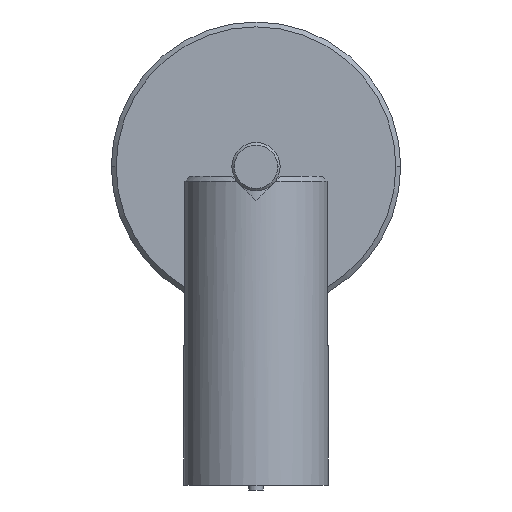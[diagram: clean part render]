
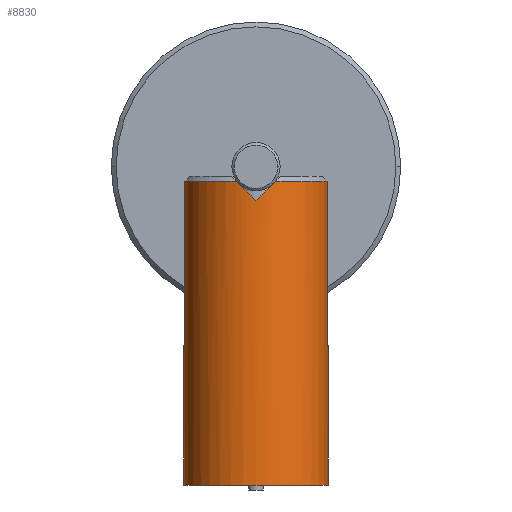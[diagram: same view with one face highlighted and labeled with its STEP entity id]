
A CAD part, front view. The second image highlights one B-rep face of the part: STEP entity #8830.
In plain terms, the highlighted cylindrical face has radius 15 mm (diameter 30 mm), a partial arc.
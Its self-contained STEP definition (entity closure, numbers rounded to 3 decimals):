
#6400=CARTESIAN_POINT('',(-2.6,-66.577,210.3));
#6410=DIRECTION('',(0.,-1.,0.));
#6420=DIRECTION('',(1.,0.,0.));
#6430=AXIS2_PLACEMENT_3D('',#6400,#6410,#6420);
#6440=CIRCLE('',#6430,15.);
#6450=CARTESIAN_POINT('',(12.4,-66.577,210.3));
#6460=VERTEX_POINT('',#6450);
#6470=CARTESIAN_POINT('',(-17.6,-66.577,210.3));
#6480=VERTEX_POINT('',#6470);
#6490=EDGE_CURVE('',#6460,#6480,#6440,.T.);
#7910=CARTESIAN_POINT('',(-2.6,-7.648,210.3));
#7920=DIRECTION('',(0.707,-0.707,0.));
#7930=DIRECTION('',(-0.707,-0.707,-0.));
#7940=AXIS2_PLACEMENT_3D('',#7910,#7920,#7930);
#7950=ELLIPSE('',#7940,21.213,15.);
#8010=CARTESIAN_POINT('',(-2.6,-68.577,210.3));
#8020=DIRECTION('',(0.,-1.,0.));
#8030=DIRECTION('',(1.,0.,0.));
#8040=AXIS2_PLACEMENT_3D('',#8010,#8020,#8030);
#8050=CYLINDRICAL_SURFACE('',#8040,15.);
#8060=CARTESIAN_POINT('',(-2.6,-37.577,210.3));
#8070=DIRECTION('',(0.,-1.,0.));
#8080=DIRECTION('',(1.,0.,0.));
#8090=AXIS2_PLACEMENT_3D('',#8060,#8070,#8080);
#8100=CIRCLE('',#8090,15.);
#8110=CARTESIAN_POINT('',(12.4,-37.577,210.3));
#8120=VERTEX_POINT('',#8110);
#8130=CARTESIAN_POINT('',(12.146,-37.577,213.05));
#8140=VERTEX_POINT('',#8130);
#8150=EDGE_CURVE('',#8120,#8140,#8100,.T.);
#8160=ORIENTED_EDGE('',*,*,#8150,.T.);
#8170=CARTESIAN_POINT('',(12.4,-68.577,210.3));
#8180=DIRECTION('',(0.,-1.,0.));
#8190=VECTOR('',#8180,1.);
#8200=LINE('',#8170,#8190);
#8210=EDGE_CURVE('',#8120,#6460,#8200,.T.);
#8220=ORIENTED_EDGE('',*,*,#8210,.F.);
#8230=ORIENTED_EDGE('',*,*,#6490,.F.);
#8240=CARTESIAN_POINT('',(-17.6,-68.577,210.3));
#8250=DIRECTION('',(0.,-1.,0.));
#8260=VECTOR('',#8250,1.);
#8270=LINE('',#8240,#8260);
#8280=CARTESIAN_POINT('',(-17.6,-37.577,210.3));
#8290=VERTEX_POINT('',#8280);
#8300=EDGE_CURVE('',#8290,#6480,#8270,.T.);
#8310=ORIENTED_EDGE('',*,*,#8300,.T.);
#8320=CARTESIAN_POINT('',(-17.346,-37.577,213.05));
#8330=VERTEX_POINT('',#8320);
#8340=EDGE_CURVE('',#8330,#8290,#8100,.T.);
#8350=ORIENTED_EDGE('',*,*,#8340,.T.);
#8360=CARTESIAN_POINT('',(-17.346,-60.077,213.05));
#8370=DIRECTION('',(0.,-1.,0.));
#8380=VECTOR('',#8370,1.);
#8390=LINE('',#8360,#8380);
#8400=CARTESIAN_POINT('',(-17.346,-3.577,213.05));
#8410=VERTEX_POINT('',#8400);
#8420=EDGE_CURVE('',#8410,#8330,#8390,.T.);
#8430=ORIENTED_EDGE('',*,*,#8420,.T.);
#8440=CARTESIAN_POINT('',(-2.6,-3.577,210.3));
#8450=DIRECTION('',(0.,-1.,0.));
#8460=DIRECTION('',(-1.,0.,0.));
#8470=AXIS2_PLACEMENT_3D('',#8440,#8450,#8460);
#8480=CIRCLE('',#8470,15.);
#8490=CARTESIAN_POINT('',(-6.671,-3.577,
224.737));
#8500=VERTEX_POINT('',#8490);
#8510=EDGE_CURVE('',#8500,#8410,#8480,.T.);
#8520=ORIENTED_EDGE('',*,*,#8510,.T.);
#8530=CARTESIAN_POINT('',(-2.6,-7.648,210.3));
#8540=DIRECTION('',(-0.707,-0.707,-0.));
#8550=DIRECTION('',(-0.707,0.707,0.));
#8560=AXIS2_PLACEMENT_3D('',#8530,#8540,#8550);
#8570=ELLIPSE('',#8560,21.213,15.);
#8580=CARTESIAN_POINT('',(-2.6,-7.648,225.3));
#8590=VERTEX_POINT('',#8580);
#8600=EDGE_CURVE('',#8590,#8500,#8570,.T.);
#8610=ORIENTED_EDGE('',*,*,#8600,.T.);
#8620=CARTESIAN_POINT('',(1.471,-3.577,
224.737));
#8630=VERTEX_POINT('',#8620);
#8640=EDGE_CURVE('',#8630,#8590,#7950,.T.);
#8650=ORIENTED_EDGE('',*,*,#8640,.T.);
#8660=CARTESIAN_POINT('',(-2.6,-3.577,210.3));
#8670=DIRECTION('',(0.,-1.,0.));
#8680=DIRECTION('',(-1.,0.,0.));
#8690=AXIS2_PLACEMENT_3D('',#8660,#8670,#8680);
#8700=CIRCLE('',#8690,15.);
#8710=CARTESIAN_POINT('',(12.146,-3.577,213.05));
#8720=VERTEX_POINT('',#8710);
#8730=EDGE_CURVE('',#8720,#8630,#8700,.T.);
#8740=ORIENTED_EDGE('',*,*,#8730,.T.);
#8750=CARTESIAN_POINT('',(12.146,-60.077,213.05));
#8760=DIRECTION('',(0.,-1.,0.));
#8770=VECTOR('',#8760,1.);
#8780=LINE('',#8750,#8770);
#8790=EDGE_CURVE('',#8720,#8140,#8780,.T.);
#8800=ORIENTED_EDGE('',*,*,#8790,.F.);
#8810=EDGE_LOOP('',(#8800,#8740,#8650,#8610,#8520,#8430,#8350,#8310,
#8230,#8220,#8160));
#8820=FACE_OUTER_BOUND('',#8810,.T.);
#8830=ADVANCED_FACE('',(#8820),#8050,.T.);
